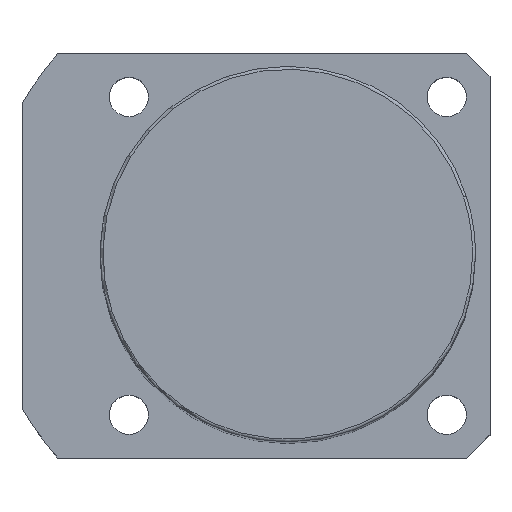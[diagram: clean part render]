
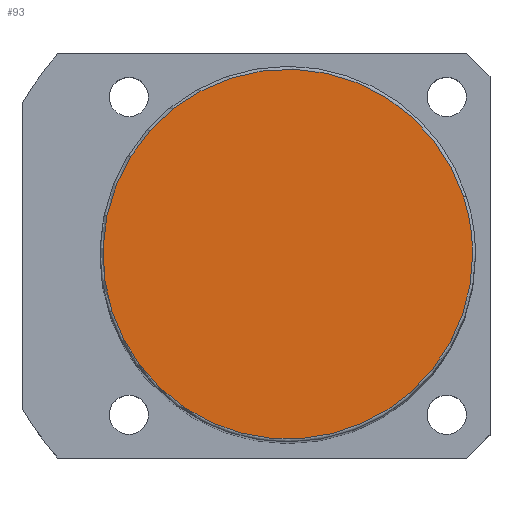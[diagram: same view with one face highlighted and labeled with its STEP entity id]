
A CAD part, top view. The second image highlights one B-rep face of the part: STEP entity #93.
In plain terms, the highlighted planar face has unit normal (0, 0, 1).
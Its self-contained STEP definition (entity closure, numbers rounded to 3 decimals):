
#16=CARTESIAN_POINT('',(30.434,9.889,186.0));
#17=VERTEX_POINT('',#16);
#45=CARTESIAN_POINT('',(-30.434,-9.889,186.0));
#46=VERTEX_POINT('',#45);
#54=CARTESIAN_POINT('',(0.0,0.0,186.0));
#55=DIRECTION('',(0.0,0.0,1.0));
#56=DIRECTION('',(1.0,0.0,0.0));
#57=AXIS2_PLACEMENT_3D('',#54,#55,#56);
#58=CIRCLE('',#57,32.0);
#59=EDGE_CURVE('no 890',#17,#46,#58,.T.);
#69=CARTESIAN_POINT('',(32.0,0.0,186.0));
#70=VERTEX_POINT('',#69);
#71=CARTESIAN_POINT('',(0.0,0.0,186.0));
#72=DIRECTION('',(0.0,0.0,1.0));
#73=DIRECTION('',(1.0,0.0,0.0));
#74=AXIS2_PLACEMENT_3D('',#71,#72,#73);
#75=CIRCLE('',#74,32.0);
#76=EDGE_CURVE('no 899',#70,#17,#75,.T.);
#77=ORIENTED_EDGE('',*,*,#76,.T.);
#78=ORIENTED_EDGE('',*,*,#59,.T.);
#79=CARTESIAN_POINT('',(0.0,0.0,186.0));
#80=DIRECTION('',(0.0,0.0,1.0));
#81=DIRECTION('',(1.0,0.0,0.0));
#82=AXIS2_PLACEMENT_3D('',#79,#80,#81);
#83=CIRCLE('',#82,32.0);
#84=EDGE_CURVE('no 905',#46,#70,#83,.T.);
#85=ORIENTED_EDGE('',*,*,#84,.T.);
#86=EDGE_LOOP('',(#77,#78,#85));
#87=FACE_OUTER_BOUND('',#86,.T.);
#88=CARTESIAN_POINT('',(0.0,0.0,186.0));
#89=DIRECTION('',(0.0,0.0,1.0));
#90=DIRECTION('',(1.0,0.0,0.0));
#91=AXIS2_PLACEMENT_3D('',#88,#89,#90);
#92=PLANE('',#91);
#93=ADVANCED_FACE('no 892',(#87),#92,.T.);
